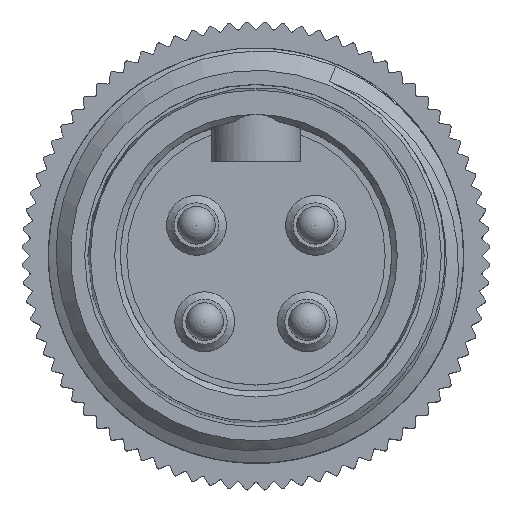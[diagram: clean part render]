
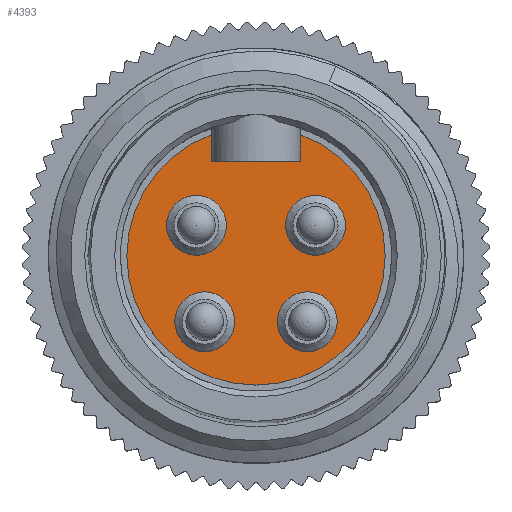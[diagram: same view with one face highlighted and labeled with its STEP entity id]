
A CAD part, top view. The second image highlights one B-rep face of the part: STEP entity #4393.
In plain terms, the highlighted planar face has unit normal (0, 0, 1).
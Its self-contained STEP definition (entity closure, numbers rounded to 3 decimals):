
#13 = AXIS2_PLACEMENT_3D ( 'NONE', #479, #15119, #5310 ) ;
#181 = DIRECTION ( 'NONE',  ( 1., 0., 0. ) ) ;
#479 = CARTESIAN_POINT ( 'NONE',  ( -3.18, 1.63, -8. ) ) ;
#557 = CARTESIAN_POINT ( 'NONE',  ( 2.4, 6.9, -8. ) ) ;
#777 = EDGE_CURVE ( 'NONE', #11342, #10764, #21018, .T. ) ;
#1247 = CARTESIAN_POINT ( 'NONE',  ( 2.4, 5.05, -8. ) ) ;
#1271 = CARTESIAN_POINT ( 'NONE',  ( 2.74, -3.52, -8. ) ) ;
#1614 = DIRECTION ( 'NONE',  ( 0., 0., 1. ) ) ;
#2022 = DIRECTION ( 'NONE',  ( -1., 0., 0. ) ) ;
#2129 = EDGE_LOOP ( 'NONE', ( #11691 ) ) ;
#2368 = DIRECTION ( 'NONE',  ( 0., -1., 0. ) ) ;
#3079 = CARTESIAN_POINT ( 'NONE',  ( -2.74, -3.52, -8. ) ) ;
#3290 = CARTESIAN_POINT ( 'NONE',  ( -4.34, -3.52, -8. ) ) ;
#3313 = AXIS2_PLACEMENT_3D ( 'NONE', #3079, #19435, #7777 ) ;
#3566 = CARTESIAN_POINT ( 'NONE',  ( -2.4, 5.05, -8. ) ) ;
#3759 = LINE ( 'NONE', #6252, #4504 ) ;
#4168 = LINE ( 'NONE', #557, #9244 ) ;
#4393 = ADVANCED_FACE ( 'NONE', ( #12908, #13662, #4968, #8544, #4463 ), #7415, .F. ) ;
#4463 = FACE_BOUND ( 'NONE', #12560, .T. ) ;
#4473 = DIRECTION ( 'NONE',  ( -1., 0., 0. ) ) ;
#4504 = VECTOR ( 'NONE', #17717, 1000. ) ;
#4514 = CIRCLE ( 'NONE', #17334, 6.9 ) ;
#4556 = VERTEX_POINT ( 'NONE', #12568 ) ;
#4810 = EDGE_CURVE ( 'NONE', #14207, #14207, #16232, .T. ) ;
#4968 = FACE_BOUND ( 'NONE', #6443, .T. ) ;
#5075 = AXIS2_PLACEMENT_3D ( 'NONE', #18373, #18306, #2022 ) ;
#5310 = DIRECTION ( 'NONE',  ( -1., 0., 0. ) ) ;
#5740 = VERTEX_POINT ( 'NONE', #8472 ) ;
#6252 = CARTESIAN_POINT ( 'NONE',  ( -2.4, 6.9, -8. ) ) ;
#6443 = EDGE_LOOP ( 'NONE', ( #8711 ) ) ;
#6553 = EDGE_CURVE ( 'NONE', #18064, #18064, #14611, .T. ) ;
#7076 = ORIENTED_EDGE ( 'NONE', *, *, #20647, .T. ) ;
#7365 = VERTEX_POINT ( 'NONE', #19878 ) ;
#7415 = PLANE ( 'NONE',  #17934 ) ;
#7492 = ORIENTED_EDGE ( 'NONE', *, *, #4810, .F. ) ;
#7777 = DIRECTION ( 'NONE',  ( -1., 0., 0. ) ) ;
#7905 = ORIENTED_EDGE ( 'NONE', *, *, #15430, .F. ) ;
#8404 = CARTESIAN_POINT ( 'NONE',  ( -4.78, 1.63, -8. ) ) ;
#8472 = CARTESIAN_POINT ( 'NONE',  ( 1.14, -3.52, -8. ) ) ;
#8544 = FACE_BOUND ( 'NONE', #11101, .T. ) ;
#8711 = ORIENTED_EDGE ( 'NONE', *, *, #14513, .F. ) ;
#8713 = VECTOR ( 'NONE', #19461, 1000. ) ;
#8794 = VERTEX_POINT ( 'NONE', #13555 ) ;
#8916 = CARTESIAN_POINT ( 'NONE',  ( 0., 6.9, -8. ) ) ;
#9244 = VECTOR ( 'NONE', #13545, 1000. ) ;
#9927 = CARTESIAN_POINT ( 'NONE',  ( 0., 0., -8. ) ) ;
#10256 = ORIENTED_EDGE ( 'NONE', *, *, #12585, .F. ) ;
#10764 = VERTEX_POINT ( 'NONE', #1247 ) ;
#11101 = EDGE_LOOP ( 'NONE', ( #7492 ) ) ;
#11149 = ORIENTED_EDGE ( 'NONE', *, *, #18119, .F. ) ;
#11342 = VERTEX_POINT ( 'NONE', #3566 ) ;
#11691 = ORIENTED_EDGE ( 'NONE', *, *, #6553, .F. ) ;
#12157 = DIRECTION ( 'NONE',  ( 0., 0., -1. ) ) ;
#12560 = EDGE_LOOP ( 'NONE', ( #11149 ) ) ;
#12568 = CARTESIAN_POINT ( 'NONE',  ( 2.4, 6.469, -8. ) ) ;
#12585 = EDGE_CURVE ( 'NONE', #7365, #11342, #3759, .T. ) ;
#12908 = FACE_OUTER_BOUND ( 'NONE', #20632, .T. ) ;
#13446 = ORIENTED_EDGE ( 'NONE', *, *, #777, .F. ) ;
#13545 = DIRECTION ( 'NONE',  ( 0., 1., 0. ) ) ;
#13555 = CARTESIAN_POINT ( 'NONE',  ( 1.58, 1.63, -8. ) ) ;
#13662 = FACE_BOUND ( 'NONE', #2129, .T. ) ;
#14207 = VERTEX_POINT ( 'NONE', #8404 ) ;
#14513 = EDGE_CURVE ( 'NONE', #5740, #5740, #17495, .T. ) ;
#14611 = CIRCLE ( 'NONE', #3313, 1.6 ) ;
#15119 = DIRECTION ( 'NONE',  ( 0., 0., 1. ) ) ;
#15430 = EDGE_CURVE ( 'NONE', #10764, #4556, #4168, .T. ) ;
#16232 = CIRCLE ( 'NONE', #13, 1.6 ) ;
#17334 = AXIS2_PLACEMENT_3D ( 'NONE', #9927, #1614, #181 ) ;
#17485 = DIRECTION ( 'NONE',  ( 0., 0., 1. ) ) ;
#17495 = CIRCLE ( 'NONE', #18342, 1.6 ) ;
#17717 = DIRECTION ( 'NONE',  ( 0., -1., 0. ) ) ;
#17934 = AXIS2_PLACEMENT_3D ( 'NONE', #8916, #12157, #2368 ) ;
#18064 = VERTEX_POINT ( 'NONE', #3290 ) ;
#18119 = EDGE_CURVE ( 'NONE', #8794, #8794, #19944, .T. ) ;
#18306 = DIRECTION ( 'NONE',  ( 0., 0., 1. ) ) ;
#18342 = AXIS2_PLACEMENT_3D ( 'NONE', #1271, #17485, #4473 ) ;
#18373 = CARTESIAN_POINT ( 'NONE',  ( 3.18, 1.63, -8. ) ) ;
#19435 = DIRECTION ( 'NONE',  ( 0., 0., 1. ) ) ;
#19461 = DIRECTION ( 'NONE',  ( 1., 0., 0. ) ) ;
#19878 = CARTESIAN_POINT ( 'NONE',  ( -2.4, 6.469, -8. ) ) ;
#19944 = CIRCLE ( 'NONE', #5075, 1.6 ) ;
#20632 = EDGE_LOOP ( 'NONE', ( #7905, #13446, #10256, #7076 ) ) ;
#20647 = EDGE_CURVE ( 'NONE', #7365, #4556, #4514, .T. ) ;
#21018 = LINE ( 'NONE', #21051, #8713 ) ;
#21051 = CARTESIAN_POINT ( 'NONE',  ( 0., 5.05, -8. ) ) ;
